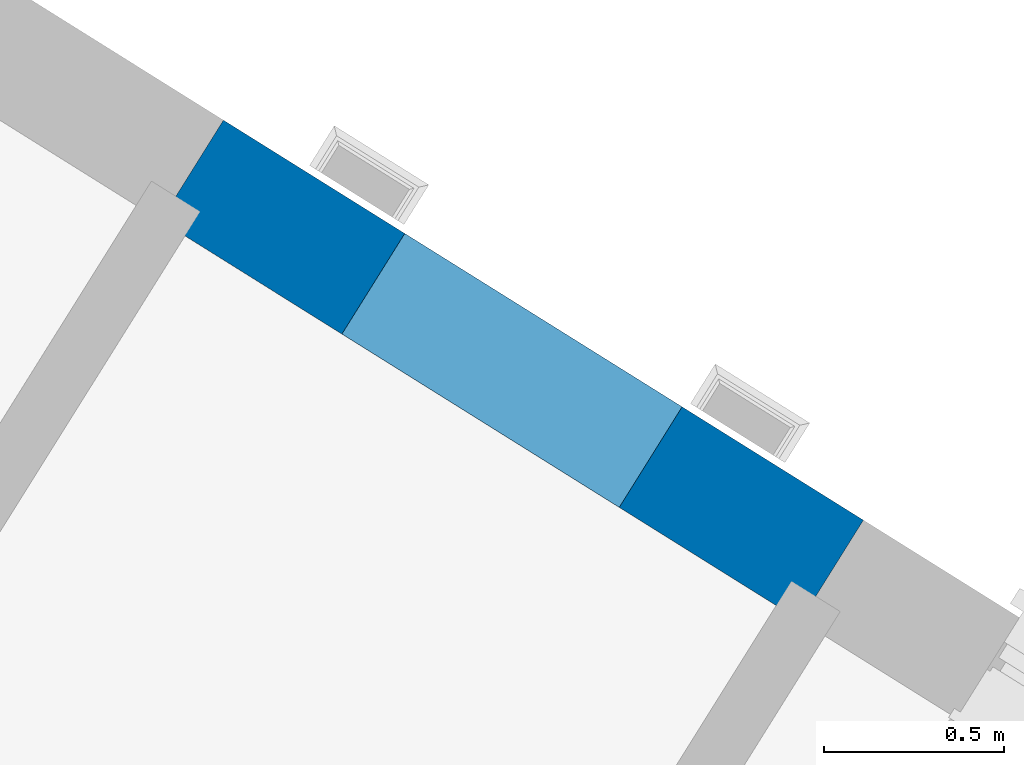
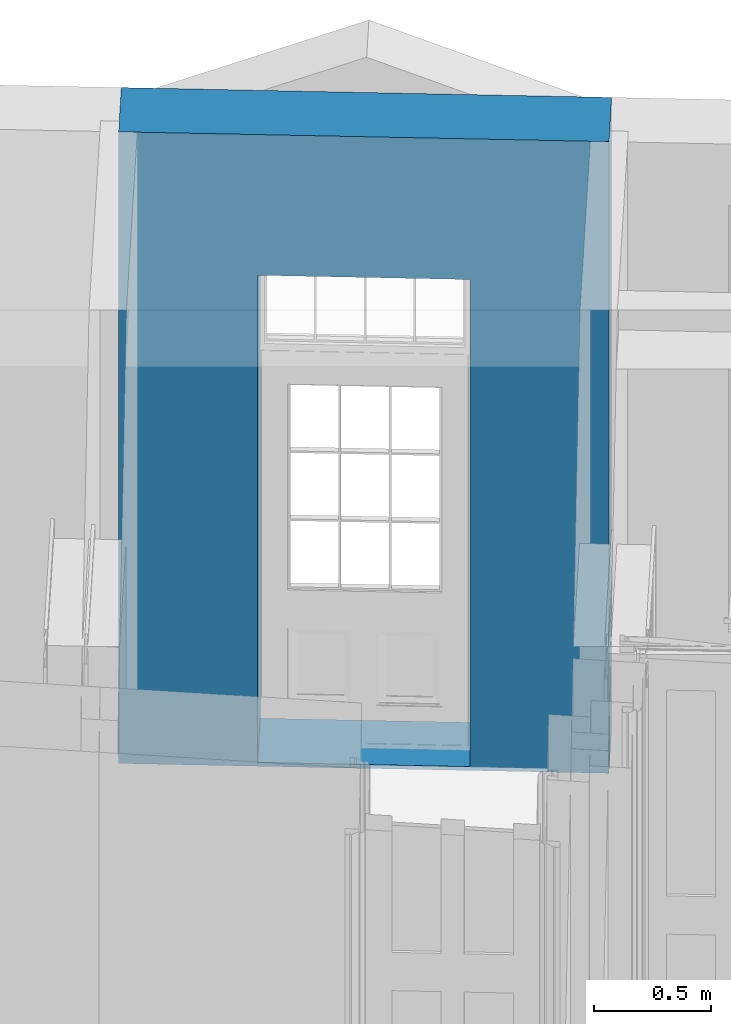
# One storey, part 5 of 5: 1 wall, 1 opening.
"""IFC4 building model written with IfcOpenShell, lengths in metres."""

from ifc_helpers import new_model, si_unit, frame, origin_with_axes, place, context, subcontext, project, spatial, polyline, outline, extrude, material, layer, layer_set, layer_usage, type_object, element, save


model = new_model("IFC4")

# Units and contexts
model_context = context("Model", 3, world=origin_with_axes())
body_context = subcontext(model_context, "Body", "Model", "MODEL_VIEW")
ifc_project = project(units=[si_unit("PLANEANGLEUNIT", "RADIAN"), si_unit("MASSUNIT", "GRAM", prefix="KILO"), si_unit("FORCEUNIT", "NEWTON", prefix="KILO"), si_unit("LENGTHUNIT", "METRE"), si_unit("AREAUNIT", "SQUARE_METRE"), si_unit("VOLUMEUNIT", "CUBIC_METRE")], contexts=[model_context, model_context])

# Sites, building, storey
site_1_placement = place(None, origin_with_axes())
site_1 = spatial("IfcSite", under=ifc_project, at=site_1_placement, Name="Tamar")
site_2_placement = place(site_1_placement, origin_with_axes())
site_2 = spatial("IfcSite", under=site_1, at=site_2_placement, Name="Site plot-4", CompositionType="ELEMENT")
building_placement = place(None, origin_with_axes())
building = spatial("IfcBuilding", under=site_2, at=building_placement, Name="Building plot-4", CompositionType="ELEMENT")
storey_placement = place(None, frame((0.0, 0.0, 24.5), z_axis=(0.0, 0.0, 1.0), x_axis=(1.0, 0.0, 0.0)))
storey = spatial("IfcBuildingStorey", under=building, at=storey_placement, Name="plot-4 0", CompositionType="ELEMENT", Elevation=24.5)

# Wall, opening
ifc_material = material(Name="Masonry")
ifc_layer = layer(ifc_material, 0.33, ventilated=False)
ifc_layer_set = layer_set([ifc_layer], Name="exterior_0.08_0.25")
ifc_layer_usage = layer_usage(ifc_layer_set, "AXIS2", "POSITIVE", -0.25)
wall_type = type_object("IfcWallType", Name="exterior_0.08_0.25", PredefinedType="SOLIDWALL", material=ifc_layer_set)
wall_placement = place(storey_placement, frame((224.898872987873, 283.58120855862, 0.0), z_axis=(0.0, 0.0, 1.0), x_axis=(-0.847981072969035, 0.530026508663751, 0.0)))
wall = element("IfcWall", 1, at=wall_placement, inside=storey, type_object=wall_type, material=ifc_layer_usage, Name="exterior", context=body_context, shape_type="SweptSolid", body=[
    extrude(outline(polyline([(1.52105131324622e-14, 0.0799999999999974), (-3.03780523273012e-15, -0.250000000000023), (2.09988982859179, -0.250000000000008), (2.09988982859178, 0.0799999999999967), (1.52105131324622e-14, 0.0799999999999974)])), origin_with_axes(), (0.0, 0.0, 1.0), 3.3),
])
opening_placement = place(wall_placement, frame((0.594944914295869, 0.0, 0.0199999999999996)))
element("IfcOpeningElement", 2, at=opening_placement, cuts=wall, Name="My Opening", ObjectType="Opening", context=body_context, shape_type="SweptSolid", body=[
    extrude(outline(polyline([(0.0, -0.269999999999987), (0.910000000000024, -0.270000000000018), (0.910000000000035, 1.09999999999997), (1.13242748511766e-14, 1.1), (0.0, -0.269999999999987)])), origin_with_axes(), (0.0, 0.0, 1.0), 2.545),
])

save(model, "model.ifc")
